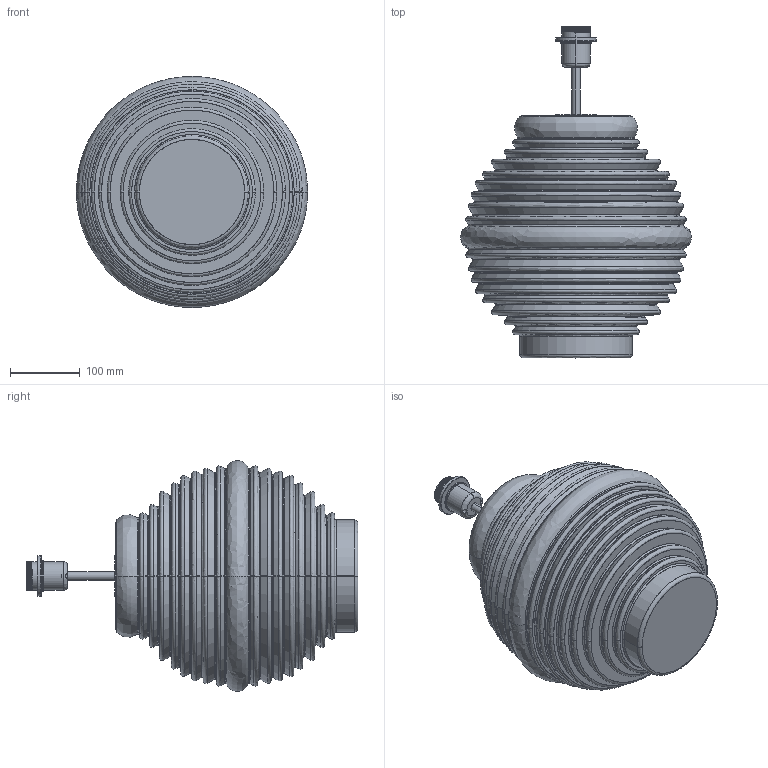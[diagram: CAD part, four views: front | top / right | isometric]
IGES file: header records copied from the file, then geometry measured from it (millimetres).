
Start section: SolidWorks IGES file using analytic representation for surfaces
Global section: file name: C:\Users\danielet\Desktop\ISMAIL\sergio\TARIFA-S8215080NSP-3D\TARIFA-S8215080NSP-3D.IGS; native system: SolidWorks 2018; preprocessor: SolidWorks 2018; author: danielet; date: 230316.120021; units: millimetre
Bounding box: 330.32 x 474.2 x 330.32 mm (x, y, z)
Surface area: 493927.6 mm2 (no closed solid volume)
Topology: 0 solids, 0 shells, 230 faces, 4785 edges, 4785 vertices
Faces by surface type: bspline 150, revolution 80
